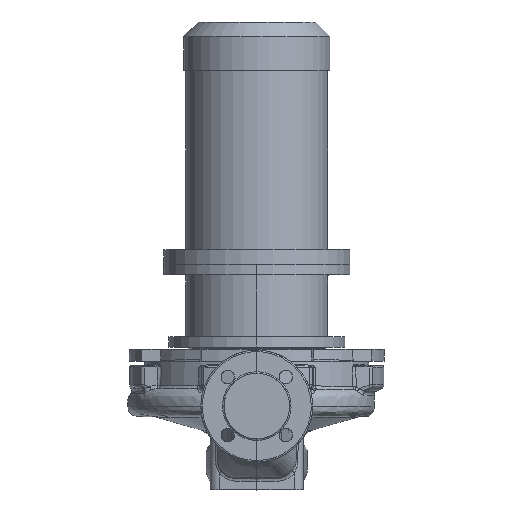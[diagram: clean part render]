
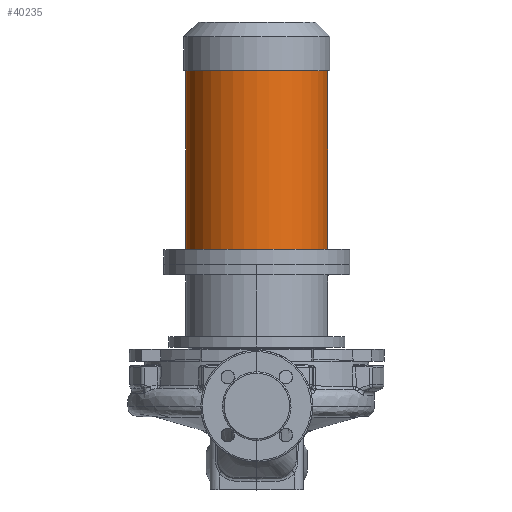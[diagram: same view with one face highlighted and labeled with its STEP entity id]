
A CAD part, top view. The second image highlights one B-rep face of the part: STEP entity #40235.
In plain terms, the highlighted cylindrical face has radius 95 mm (diameter 190 mm), a partial arc.
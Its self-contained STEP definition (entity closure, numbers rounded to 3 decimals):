
#134 = DIRECTION ( 'NONE',  ( 0., -1., 0. ) ) ;
#3568 = CARTESIAN_POINT ( 'NONE',  ( -95., 210.3, 0. ) ) ;
#8078 = DIRECTION ( 'NONE',  ( 0., -1., 0. ) ) ;
#8856 = AXIS2_PLACEMENT_3D ( 'NONE', #9311, #47321, #25555 ) ;
#9311 = CARTESIAN_POINT ( 'NONE',  ( 0., 450.3, 0. ) ) ;
#9494 = EDGE_CURVE ( 'NONE', #17767, #28575, #11825, .T. ) ;
#11825 = CIRCLE ( 'NONE', #8856, 95. ) ;
#14357 = EDGE_CURVE ( 'NONE', #17767, #21947, #21882, .T. ) ;
#15578 = ORIENTED_EDGE ( 'NONE', *, *, #14357, .F. ) ;
#16171 = DIRECTION ( 'NONE',  ( 0., -1., 0. ) ) ;
#17767 = VERTEX_POINT ( 'NONE', #28362 ) ;
#18015 = DIRECTION ( 'NONE',  ( -1., 0., 0. ) ) ;
#21734 = ORIENTED_EDGE ( 'NONE', *, *, #9494, .T. ) ;
#21882 = LINE ( 'NONE', #31542, #42203 ) ;
#21947 = VERTEX_POINT ( 'NONE', #40774 ) ;
#22083 = VECTOR ( 'NONE', #134, 1000. ) ;
#23633 = CARTESIAN_POINT ( 'NONE',  ( 0., 210.3, 0. ) ) ;
#25555 = DIRECTION ( 'NONE',  ( -1., 0., 0. ) ) ;
#28362 = CARTESIAN_POINT ( 'NONE',  ( 95., 450.3, 0. ) ) ;
#28575 = VERTEX_POINT ( 'NONE', #52844 ) ;
#31542 = CARTESIAN_POINT ( 'NONE',  ( 95., 190.3, 0. ) ) ;
#32499 = CIRCLE ( 'NONE', #36190, 95. ) ;
#32866 = EDGE_CURVE ( 'NONE', #21947, #40882, #32499, .T. ) ;
#33207 = CARTESIAN_POINT ( 'NONE',  ( -95., 190.3, 0. ) ) ;
#35115 = CARTESIAN_POINT ( 'NONE',  ( 0., 190.3, 0. ) ) ;
#35347 = DIRECTION ( 'NONE',  ( -1., 0., 0. ) ) ;
#36190 = AXIS2_PLACEMENT_3D ( 'NONE', #23633, #8078, #18015 ) ;
#40137 = EDGE_LOOP ( 'NONE', ( #15578, #21734, #41046, #43470 ) ) ;
#40235 = ADVANCED_FACE ( 'NONE', ( #42760 ), #66443, .T. ) ;
#40774 = CARTESIAN_POINT ( 'NONE',  ( 95., 210.3, 0. ) ) ;
#40882 = VERTEX_POINT ( 'NONE', #3568 ) ;
#41046 = ORIENTED_EDGE ( 'NONE', *, *, #67799, .T. ) ;
#42203 = VECTOR ( 'NONE', #16171, 1000. ) ;
#42760 = FACE_OUTER_BOUND ( 'NONE', #40137, .T. ) ;
#43470 = ORIENTED_EDGE ( 'NONE', *, *, #32866, .F. ) ;
#46449 = DIRECTION ( 'NONE',  ( 0., -1., 0. ) ) ;
#47321 = DIRECTION ( 'NONE',  ( 0., -1., 0. ) ) ;
#52844 = CARTESIAN_POINT ( 'NONE',  ( -95., 450.3, 0. ) ) ;
#66443 = CYLINDRICAL_SURFACE ( 'NONE', #67365, 95. ) ;
#66998 = LINE ( 'NONE', #33207, #22083 ) ;
#67365 = AXIS2_PLACEMENT_3D ( 'NONE', #35115, #46449, #35347 ) ;
#67799 = EDGE_CURVE ( 'NONE', #28575, #40882, #66998, .T. ) ;
